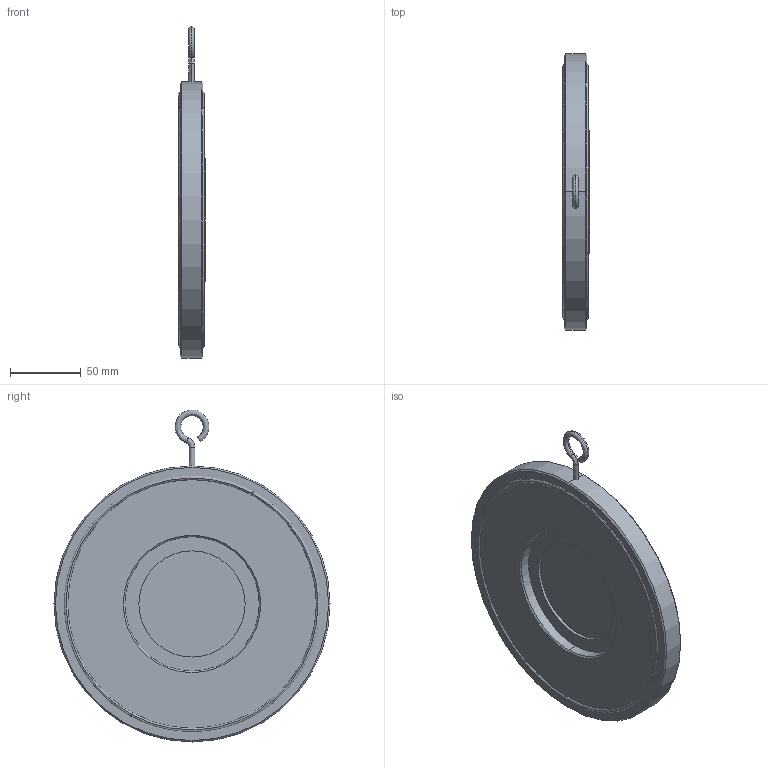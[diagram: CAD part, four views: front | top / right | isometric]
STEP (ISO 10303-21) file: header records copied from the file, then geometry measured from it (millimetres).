
FILE_DESCRIPTION (( 'STEP AP203' ), '1' );
FILE_NAME ('0.STEP', '2017-04-04T01:13:05', ( 'User' ), ( 'shendu' ), 'SwSTEP 2.0', 'SolidWorks 2015', '' );
FILE_SCHEMA (( 'CONFIG_CONTROL_DESIGN' ));
Length unit declared in the file: millimetre
Products named in the file (1): 0
Bounding box: 18.5 x 195 x 234.5 mm (x, y, z)
Volume: 400522.4 mm3; surface area: 110492.3 mm2
Topology: 11 solids, 11 shells, 180 faces, 420 edges, 264 vertices
Faces by surface type: plane 73, bspline 37, cylinder 36, cone 34
Entity records: 9483 total; most frequent: CARTESIAN_POINT 5442, ORIENTED_EDGE 830, DIRECTION 804, EDGE_CURVE 415, AXIS2_PLACEMENT_3D 305, VERTEX_POINT 264, EDGE_LOOP 199, LINE 194
